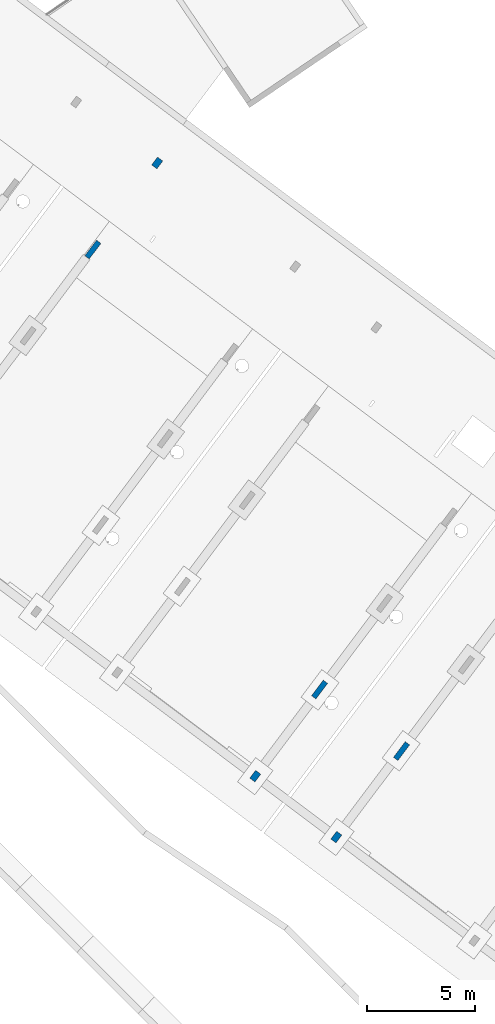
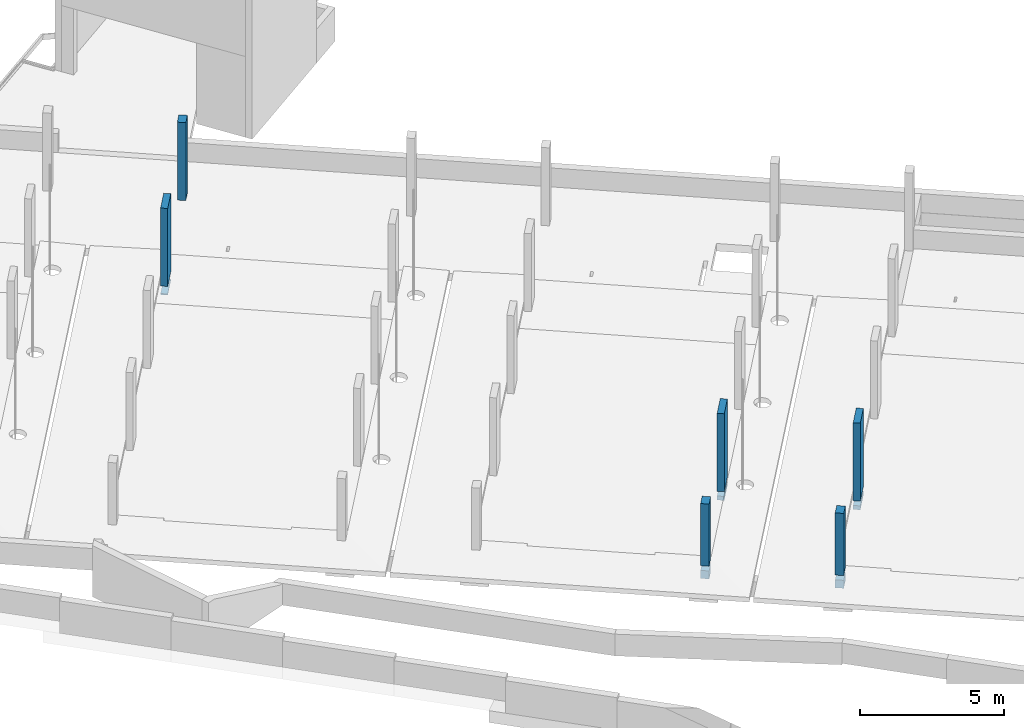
# One storey, part 9 of 24: 6 columns.
"""IFC2X3 building model written with IfcOpenShell, lengths in metres."""

from ifc_helpers import new_model, entity, si_unit, converted_unit, derived_unit, direction, frame, frame_2d, origin, origin_2d_with_axis, place, context, subcontext, project, spatial, rectangle, extrude, clip, halfspace, source, transform, mapped, material, type_object, type_shapes, element, save


model = new_model("IFC2X3")

# Units and contexts
model_context = context("Model", 3, precision=1e-05, world=origin(), true_north=direction((6.123031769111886e-17, 1.0)))
body_context = subcontext(model_context, "Body", "Model", "MODEL_VIEW")
ifc_project = project(units=[si_unit("LENGTHUNIT", "METRE"), si_unit("AREAUNIT", "SQUARE_METRE"), si_unit("VOLUMEUNIT", "CUBIC_METRE"), converted_unit("PLANEANGLEUNIT", "DEGREE", entity("IfcRatioMeasure", 0.017453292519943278), si_unit("PLANEANGLEUNIT", "RADIAN"), dimensions=[0, 0, 0, 0, 0, 0, 0]), si_unit("MASSUNIT", "GRAM", prefix="KILO"), derived_unit("MASSDENSITYUNIT", [(si_unit("MASSUNIT", "GRAM", prefix="KILO"), 1), (si_unit("LENGTHUNIT", "METRE"), -3)]), derived_unit("IONCONCENTRATIONUNIT", [(si_unit("MASSUNIT", "GRAM", prefix="KILO"), 1), (si_unit("LENGTHUNIT", "METRE"), -3)]), derived_unit("MOMENTOFINERTIAUNIT", [(si_unit("LENGTHUNIT", "METRE"), 4)]), si_unit("TIMEUNIT", "SECOND"), si_unit("FREQUENCYUNIT", "HERTZ"), si_unit("THERMODYNAMICTEMPERATUREUNIT", "DEGREE_CELSIUS"), derived_unit("THERMALTRANSMITTANCEUNIT", [(si_unit("MASSUNIT", "GRAM", prefix="KILO"), 1), (si_unit("THERMODYNAMICTEMPERATUREUNIT", "KELVIN"), -1), (si_unit("TIMEUNIT", "SECOND"), -3)]), derived_unit("THERMALCONDUCTANCEUNIT", [(si_unit("MASSUNIT", "GRAM", prefix="KILO"), 1), (si_unit("THERMODYNAMICTEMPERATUREUNIT", "KELVIN"), -1), (si_unit("TIMEUNIT", "SECOND"), -3), (si_unit("LENGTHUNIT", "METRE"), 1)]), derived_unit("VOLUMETRICFLOWRATEUNIT", [(si_unit("LENGTHUNIT", "METRE"), 3), (si_unit("TIMEUNIT", "SECOND"), -1)]), derived_unit("MASSFLOWRATEUNIT", [(si_unit("MASSUNIT", "GRAM", prefix="KILO"), 1), (si_unit("TIMEUNIT", "SECOND"), -1)]), derived_unit("ROTATIONALFREQUENCYUNIT", [(si_unit("TIMEUNIT", "SECOND"), -1)]), si_unit("ELECTRICCURRENTUNIT", "AMPERE"), si_unit("ELECTRICVOLTAGEUNIT", "VOLT"), si_unit("POWERUNIT", "WATT"), si_unit("FORCEUNIT", "NEWTON", prefix="KILO"), si_unit("ILLUMINANCEUNIT", "LUX"), si_unit("LUMINOUSFLUXUNIT", "LUMEN"), si_unit("LUMINOUSINTENSITYUNIT", "CANDELA"), derived_unit("USERDEFINED", [(si_unit("MASSUNIT", "GRAM", prefix="KILO"), -1), (si_unit("LENGTHUNIT", "METRE"), -2), (si_unit("TIMEUNIT", "SECOND"), 3), (si_unit("LUMINOUSFLUXUNIT", "LUMEN"), 1)]), derived_unit("USERDEFINED", [(si_unit("MASSUNIT", "GRAM", prefix="KILO"), 1), (si_unit("TIMEUNIT", "SECOND"), -3), (si_unit("LENGTHUNIT", "METRE"), 3), (si_unit("ELECTRICCURRENTUNIT", "AMPERE"), -2)]), derived_unit("SOUNDPOWERUNIT", [(si_unit("MASSUNIT", "GRAM", prefix="KILO"), 1), (si_unit("TIMEUNIT", "SECOND"), -3), (si_unit("LENGTHUNIT", "METRE"), 2)]), derived_unit("SOUNDPRESSUREUNIT", [(si_unit("MASSUNIT", "GRAM", prefix="KILO"), 1), (si_unit("LENGTHUNIT", "METRE"), -1), (si_unit("TIMEUNIT", "SECOND"), -2)]), derived_unit("LINEARVELOCITYUNIT", [(si_unit("LENGTHUNIT", "METRE"), 1), (si_unit("TIMEUNIT", "SECOND"), -1)]), si_unit("PRESSUREUNIT", "PASCAL"), derived_unit("USERDEFINED", [(si_unit("MASSUNIT", "GRAM", prefix="KILO"), 1), (si_unit("LENGTHUNIT", "METRE"), -2), (si_unit("TIMEUNIT", "SECOND"), -2)]), derived_unit("LINEARFORCEUNIT", [(si_unit("MASSUNIT", "GRAM", prefix="KILO"), 1), (si_unit("TIMEUNIT", "SECOND"), -2)]), derived_unit("PLANARFORCEUNIT", [(si_unit("MASSUNIT", "GRAM", prefix="KILO"), 1), (si_unit("LENGTHUNIT", "METRE"), -1), (si_unit("TIMEUNIT", "SECOND"), -2)]), derived_unit("SPECIFICHEATCAPACITYUNIT", [(si_unit("THERMODYNAMICTEMPERATUREUNIT", "KELVIN"), -1), (si_unit("LENGTHUNIT", "METRE"), 2), (si_unit("TIMEUNIT", "SECOND"), -2)]), derived_unit("HEATINGVALUEUNIT", [(si_unit("LENGTHUNIT", "METRE"), 2), (si_unit("TIMEUNIT", "SECOND"), -2)]), derived_unit("VAPORPERMEABILITYUNIT", [(si_unit("LENGTHUNIT", "METRE"), -1), (si_unit("TIMEUNIT", "SECOND"), 1)]), derived_unit("DYNAMICVISCOSITYUNIT", [(si_unit("MASSUNIT", "GRAM", prefix="KILO"), 1), (si_unit("TIMEUNIT", "SECOND"), -1), (si_unit("LENGTHUNIT", "METRE"), -1)]), derived_unit("THERMALEXPANSIONCOEFFICIENTUNIT", [(si_unit("THERMODYNAMICTEMPERATUREUNIT", "KELVIN"), -1)]), derived_unit("MODULUSOFELASTICITYUNIT", [(si_unit("MASSUNIT", "GRAM", prefix="KILO"), 1), (si_unit("LENGTHUNIT", "METRE"), -1), (si_unit("TIMEUNIT", "SECOND"), -2)]), derived_unit("ISOTHERMALMOISTURECAPACITYUNIT", [(si_unit("LENGTHUNIT", "METRE"), 3), (si_unit("MASSUNIT", "GRAM", prefix="KILO"), -1)]), derived_unit("MOISTUREDIFFUSIVITYUNIT", [(si_unit("TIMEUNIT", "SECOND"), -1), (si_unit("LENGTHUNIT", "METRE"), 2)])], contexts=[model_context])

# Site, building, storey
site_placement = place(None, origin())
site = spatial("IfcSite", under=ifc_project, at=site_placement, Name="Default", CompositionType="ELEMENT")
building_placement = place(site_placement, frame((0.0, 0.0, 235.0), z_axis=(0.0, 0.0, 1.0), x_axis=(-0.7996477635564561, 0.6004693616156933, 0.0)))
building = spatial("IfcBuilding", under=site, at=building_placement, CompositionType="ELEMENT")
storey_placement = place(building_placement, origin())
storey = spatial("IfcBuildingStorey", under=building, at=storey_placement, Name="P0- Escola", CompositionType="ELEMENT", Elevation=0.0)

# Columns
ifc_material = material(Name="_Formigó- T1- STR")
column_type_1 = type_object("IfcColumnType", Name="STR- P- Formigó- Rectangular- T1:30x45cm", PredefinedType="COLUMN", material=ifc_material)
shared_shape_1 = source(origin(), body_context, "Body", "SweptSolid", [
    clip(extrude(rectangle(XDim=0.450000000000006, YDim=0.3000000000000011, at=origin_2d_with_axis()), frame((36.49514768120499, -19.91519175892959, -0.57), z_axis=(0.0, 0.0, 1.0), x_axis=(0.0, -1.0, 0.0)), (0.0, 0.0, 1.0), 0.35000000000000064), halfspace(frame((32.62639768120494, -19.090191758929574, -0.245), z_axis=(0.0, 0.023802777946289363, 0.9997166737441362), x_axis=(-1.0, 0.0, 0.0)), False)),
    clip(extrude(rectangle(XDim=0.450000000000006, YDim=0.3000000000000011, at=origin_2d_with_axis()), frame((36.49514768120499, -19.91519175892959, -0.03071428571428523), z_axis=(0.0, 0.0, 1.0), x_axis=(0.0, -1.0, 0.0)), (0.0, 0.0, 1.0), 2.630714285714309), halfspace(frame((32.62639768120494, -19.090191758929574, -0.045), z_axis=(0.0, -0.023802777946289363, -0.9997166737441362), x_axis=(-1.0, 0.0, 0.0)), False)),
])
type_shapes(column_type_1, [shared_shape_1])
column_1_placement = place(storey_placement, origin())
element("IfcColumn", 1, at=column_1_placement, inside=storey, type_object=column_type_1, material=ifc_material, Name="STR- P- Formigó- Rectangular- T1:30x45cm", ObjectType="STR- P- Formigó- Rectangular- T1:30x45cm", context=body_context, shape_type="MappedRepresentation", body=[
    mapped(shared_shape_1, transform((0.0, 0.0, 0.0), scale=1.0)),
])
column_type_2 = type_object("IfcColumnType", Name="STR- P- Formigó- Rectangular- T1:30x45cm", PredefinedType="COLUMN", material=ifc_material)
shared_shape_2 = source(origin(), body_context, "Body", "SweptSolid", [
    clip(extrude(rectangle(XDim=0.450000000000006, YDim=0.3000000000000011, at=origin_2d_with_axis()), frame((41.19514768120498, -19.915191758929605, -0.57), z_axis=(0.0, 0.0, 1.0), x_axis=(0.0, -1.0, 0.0)), (0.0, 0.0, 1.0), 0.35000000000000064), halfspace(frame((45.457647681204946, -19.090191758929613, -0.245), z_axis=(0.0, 0.023802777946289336, 0.9997166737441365), x_axis=(0.6059345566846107, -0.7952891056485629, 0.0189354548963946)), False)),
    clip(extrude(rectangle(XDim=0.450000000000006, YDim=0.3000000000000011, at=origin_2d_with_axis()), frame((41.19514768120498, -19.915191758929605, -0.03071428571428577), z_axis=(0.0, 0.0, 1.0), x_axis=(0.0, -1.0, 0.0)), (0.0, 0.0, 1.0), 2.6307142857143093), halfspace(frame((45.457647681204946, -19.090191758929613, -0.045000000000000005), z_axis=(0.0, -0.023802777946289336, -0.9997166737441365), x_axis=(0.6059345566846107, -0.7952891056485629, 0.0189354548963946)), False)),
])
type_shapes(column_type_2, [shared_shape_2])
column_2_placement = place(storey_placement, origin())
element("IfcColumn", 2, at=column_2_placement, inside=storey, type_object=column_type_2, material=ifc_material, Name="STR- P- Formigó- Rectangular- T1:30x45cm", ObjectType="STR- P- Formigó- Rectangular- T1:30x45cm", context=body_context, shape_type="MappedRepresentation", body=[
    mapped(shared_shape_2, transform((0.0, 0.0, 0.0), scale=1.0)),
])
column_type_3 = type_object("IfcColumnType", Name="STR- P- Formigó- Rectangular- T1:30x45cm", PredefinedType="COLUMN", material=ifc_material)
shared_shape_3 = source(origin(), body_context, "Body", "SweptSolid", [
    extrude(rectangle(XDim=0.4500000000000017, YDim=0.3000000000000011, at=origin_2d_with_axis()), frame((61.895147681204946, -39.915191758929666, -0.2), z_axis=(0.0, 0.0, 1.0), x_axis=(0.0, -1.0, 0.0)), (0.0, 0.0, 1.0), 3.3000000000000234),
])
type_shapes(column_type_3, [shared_shape_3])
column_3_placement = place(storey_placement, origin())
element("IfcColumn", 3, at=column_3_placement, inside=storey, type_object=column_type_3, material=ifc_material, Name="STR- P- Formigó- Rectangular- T1:30x45cm", ObjectType="STR- P- Formigó- Rectangular- T1:30x45cm", context=body_context, shape_type="MappedRepresentation", body=[
    mapped(shared_shape_3, transform((0.0, 0.0, 0.0), scale=1.0)),
])
column_type_4 = type_object("IfcColumnType", Name="STR- P- Formigó- Rectangular- T1:25x90cm", PredefinedType="COLUMN", material=ifc_material)
shared_shape_4 = source(origin(), body_context, "Body", "SweptSolid", [
    extrude(rectangle(XDim=0.899999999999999, YDim=0.2499999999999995, at=frame_2d((0.0, -4.336808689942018e-15), x_axis=(1.0, 0.0))), frame((36.47014768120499, -24.915191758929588, -0.57), z_axis=(0.0, 0.0, 1.0), x_axis=(0.0, -1.0, 0.0)), (0.0, 0.0, 1.0), 0.16999999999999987),
    extrude(rectangle(XDim=0.899999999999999, YDim=0.2499999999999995, at=frame_2d((0.0, -4.336808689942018e-15), x_axis=(1.0, 0.0))), frame((36.47014768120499, -24.915191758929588, -0.2), z_axis=(0.0, 0.0, 1.0), x_axis=(0.0, -1.0, 0.0)), (0.0, 0.0, 1.0), 3.3000000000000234),
])
type_shapes(column_type_4, [shared_shape_4])
column_4_placement = place(storey_placement, origin())
element("IfcColumn", 4, at=column_4_placement, inside=storey, type_object=column_type_4, material=ifc_material, Name="STR- P- Formigó- Rectangular- T1:25x90cm", ObjectType="STR- P- Formigó- Rectangular- T1:25x90cm", context=body_context, shape_type="MappedRepresentation", body=[
    mapped(shared_shape_4, transform((0.0, 0.0, 0.0), scale=1.0)),
])
column_type_5 = type_object("IfcColumnType", Name="STR- P- Formigó- Rectangular- T1:25x90cm", PredefinedType="COLUMN", material=ifc_material)
shared_shape_5 = source(origin(), body_context, "Body", "SweptSolid", [
    extrude(rectangle(XDim=0.899999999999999, YDim=0.25000000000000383, at=origin_2d_with_axis()), frame((41.22014768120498, -24.915191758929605, -0.57), z_axis=(0.0, 0.0, 1.0), x_axis=(0.0, -1.0, 0.0)), (0.0, 0.0, 1.0), 0.16999999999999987),
    extrude(rectangle(XDim=0.899999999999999, YDim=0.25000000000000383, at=origin_2d_with_axis()), frame((41.22014768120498, -24.915191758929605, -0.2), z_axis=(0.0, 0.0, 1.0), x_axis=(0.0, -1.0, 0.0)), (0.0, 0.0, 1.0), 3.3000000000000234),
])
type_shapes(column_type_5, [shared_shape_5])
column_5_placement = place(storey_placement, origin())
element("IfcColumn", 5, at=column_5_placement, inside=storey, type_object=column_type_5, material=ifc_material, Name="STR- P- Formigó- Rectangular- T1:25x90cm", ObjectType="STR- P- Formigó- Rectangular- T1:25x90cm", context=body_context, shape_type="MappedRepresentation", body=[
    mapped(shared_shape_5, transform((0.0, 0.0, 0.0), scale=1.0)),
])
column_type_6 = type_object("IfcColumnType", Name="STR- P- Formigó- Rectangular- T1:25x90cm", PredefinedType="COLUMN", material=ifc_material)
shared_shape_6 = source(origin(), body_context, "Body", "SweptSolid", [
    extrude(rectangle(XDim=0.899999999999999, YDim=0.25000000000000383, at=origin_2d_with_axis()), frame((61.87014768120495, -34.91519175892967, -0.57), z_axis=(0.0, 0.0, 1.0), x_axis=(0.0, -1.0, 0.0)), (0.0, 0.0, 1.0), 0.05000000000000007),
    extrude(rectangle(XDim=0.899999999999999, YDim=0.25000000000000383, at=origin_2d_with_axis()), frame((61.87014768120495, -34.91519175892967, -0.2), z_axis=(0.0, 0.0, 1.0), x_axis=(0.0, -1.0, 0.0)), (0.0, 0.0, 1.0), 3.3000000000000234),
])
type_shapes(column_type_6, [shared_shape_6])
column_6_placement = place(storey_placement, origin())
element("IfcColumn", 6, at=column_6_placement, inside=storey, type_object=column_type_6, material=ifc_material, Name="STR- P- Formigó- Rectangular- T1:25x90cm", ObjectType="STR- P- Formigó- Rectangular- T1:25x90cm", context=body_context, shape_type="MappedRepresentation", body=[
    mapped(shared_shape_6, transform((0.0, 0.0, 0.0), scale=1.0)),
])

save(model, "model.ifc")
